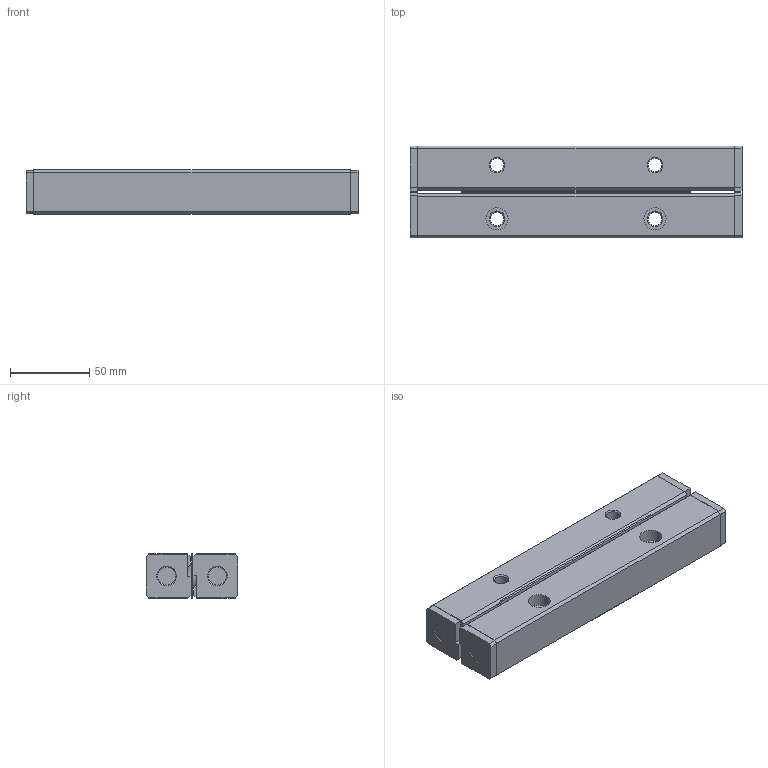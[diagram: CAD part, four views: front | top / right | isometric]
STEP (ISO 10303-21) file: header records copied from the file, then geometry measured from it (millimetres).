
FILE_DESCRIPTION(/* description */ ('STEP AP214'),/* implementation_level */ '2;1');
FILE_NAME(/* name */ 'VR12-200HX7Z(0)',/* time_stamp */ '2024-09-19T10:00:46+02:00',/* author */ ('License CC BY-ND 4.0'),/* organization */ ('CADENAS'),/* preprocessor_version */ 'ST-DEVELOPER v19.3',/* originating_system */ 'PARTsolutions',/* authorisation */ ' ');
FILE_SCHEMA (('AUTOMOTIVE_DESIGN {1 0 10303 214 3 1 1}'));
Length unit declared in the file: millimetre
Products named in the file (4): VR12-200HX7Z(0); VR12-200*7Z Roller guide; VR12-200*7Z Roller cage; VR12-200*7Z Roller guide; Top
Assembly tree (3 placements, depth 2):
  VR12-200HX7Z(0)
    VR12-200*7Z Roller guide
    VR12-200*7Z Roller cage
    VR12-200*7Z Roller guide; Top
Bounding box: 210 x 58 x 28 mm (x, y, z)
Volume: 305767.5 mm3; surface area: 64557.8 mm2
Topology: 3 solids, 3 shells, 185 faces, 483 edges, 312 vertices
Faces by surface type: plane 144, cone 26, cylinder 15
Full cylindrical faces by diameter (mm): 8.5 x4, 12 x7, 14 x4
Entity records: 5573 total; most frequent: CARTESIAN_POINT 943, DIRECTION 908, ORIENTED_EDGE 884, EDGE_CURVE 442, LINE 354, VECTOR 354, VERTEX_POINT 312, AXIS2_PLACEMENT_3D 277
